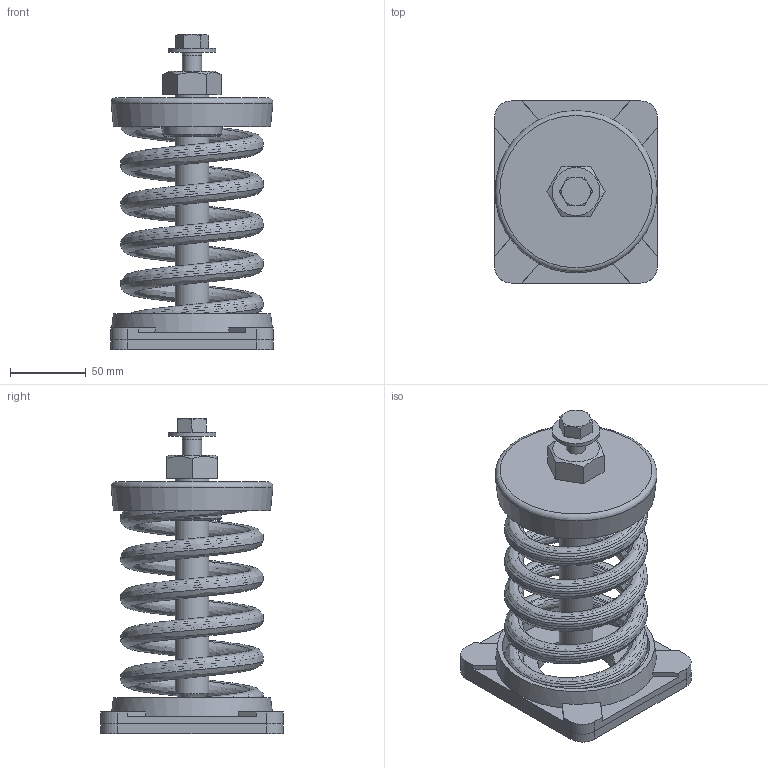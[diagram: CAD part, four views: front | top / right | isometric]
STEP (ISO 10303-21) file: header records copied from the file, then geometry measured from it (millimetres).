
FILE_DESCRIPTION(/* description */ (''),/* implementation_level */ '2;1');
FILE_NAME(/* name */ 'C:\001_Work\Designs\SLF ASSEMBLIES\SLF-107.stp',/* time_stamp */ '2016-01-10T14:20:39-05:00',/* author */ ('rramoutar'),/* organization */ ('Mason Industries Inc.'),/* preprocessor_version */ 'ST-DEVELOPER v15.6',/* originating_system */ 'Autodesk Inventor 2015',/* authorisation */ '');
FILE_SCHEMA (('CONFIG_CONTROL_DESIGN'));
Length unit declared in the file: inch
Products named in the file (1): SLF-107
Bounding box: 107.95 x 120.65 x 208.64 mm (x, y, z)
Volume: 348214.2 mm3; surface area: 216062 mm2
Topology: 7 solids, 7 shells, 232 faces, 587 edges, 388 vertices
Faces by surface type: plane 156, bspline 30, cylinder 29, cone 14, torus 3
Full cylindrical faces by diameter (mm): 9.525 x8, 12.7 x2, 13.487 x1, 19.05 x1, 22.225 x2, 31.75 x1, 50.8 x2, 97.631 x2
Entity records: 15704 total; most frequent: CARTESIAN_POINT 10201, ORIENTED_EDGE 1088, DIRECTION 951, EDGE_CURVE 544, VERTEX_POINT 375, LINE 363, VECTOR 363, EDGE_LOOP 299
